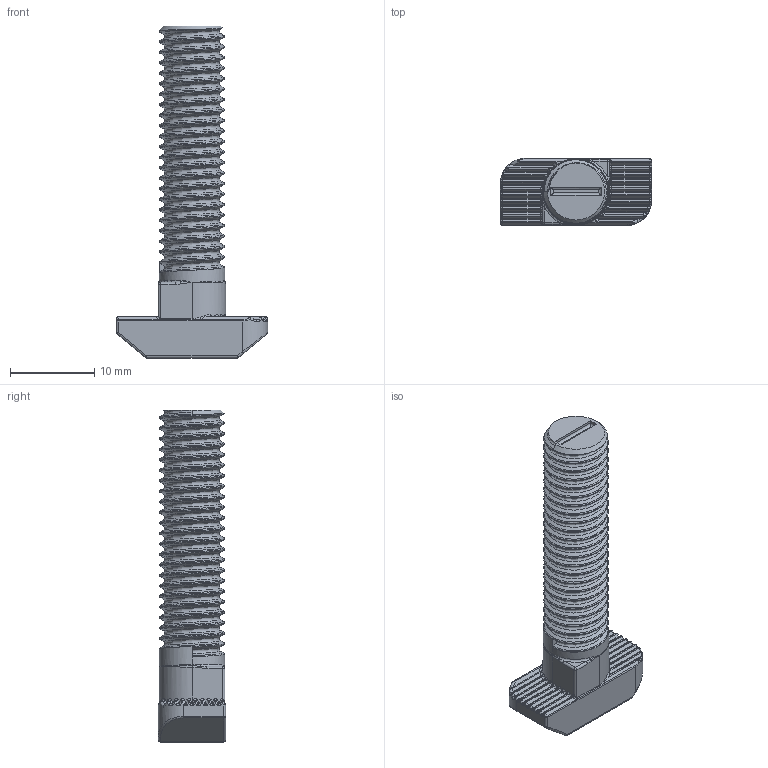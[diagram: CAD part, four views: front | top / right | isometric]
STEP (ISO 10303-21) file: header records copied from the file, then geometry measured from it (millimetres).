
FILE_DESCRIPTION (( 'STEP AP203' ), '1' );
FILE_NAME ('5028.STEP', '2016-01-21T10:18:42', ( '' ), ( '' ), 'SwSTEP 2.0', 'SolidWorks 2014', '' );
FILE_SCHEMA (( 'CONFIG_CONTROL_DESIGN' ));
Length unit declared in the file: millimetre
Products named in the file (1): 5028
Bounding box: 18 x 8 x 39.5 mm (x, y, z)
Volume: 2014.4 mm3; surface area: 1586.7 mm2
Topology: 1 solids, 1 shells, 371 faces, 894 edges, 472 vertices
Faces by surface type: bspline 143, cylinder 127, plane 61, torus 29, sphere 10, cone 1
Entity records: 20532 total; most frequent: CARTESIAN_POINT 13361, ORIENTED_EDGE 1680, DIRECTION 1284, EDGE_CURVE 840, AXIS2_PLACEMENT_3D 514, VERTEX_POINT 472, EDGE_LOOP 372, ADVANCED_FACE 371
